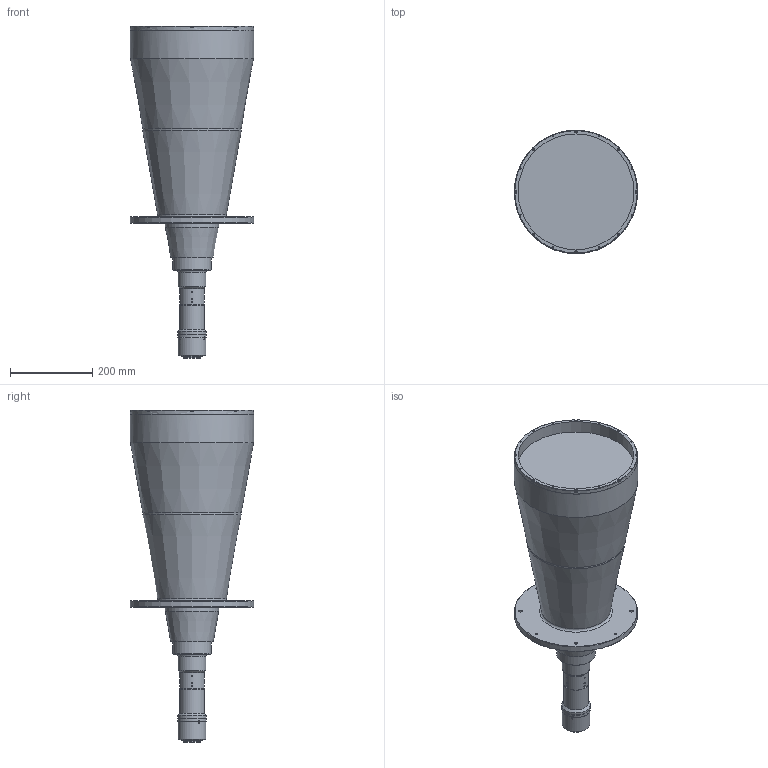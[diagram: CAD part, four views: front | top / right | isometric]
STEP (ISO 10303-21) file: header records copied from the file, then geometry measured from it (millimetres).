
FILE_DESCRIPTION (( 'STEP AP203' ), '1' );
FILE_NAME ('3d_mtl-26535p-013_a002.STEP', '2017-06-23T04:41:16', ( '' ), ( '' ), 'SwSTEP 2.0', 'SolidWorks 2014', '' );
FILE_SCHEMA (( 'CONFIG_CONTROL_DESIGN' ));
Length unit declared in the file: millimetre
Products named in the file (1): 3d_mtl-26535p-013_a002
Bounding box: 300 x 300 x 808.4 mm (x, y, z)
Volume: 23380633.3 mm3; surface area: 689876.3 mm2
Topology: 1 solids, 9 shells, 850 faces, 1983 edges, 1213 vertices
Faces by surface type: plane 512, cone 199, cylinder 98, torus 33, sphere 8
Full cylindrical faces by diameter (mm): 1.5 x8, 1.6 x4, 2.5 x3, 3.2 x4, 3.5 x8, 3.8 x3, 5 x4, 5.5 x8, 7 x4, 8 x8, 39 x1, 40.916 x1, 41.5 x1, 42 x1, 43 x1, 45 x1, 47 x1, 49 x1, 50 x1, 53 x1, 53.5 x1, 57.5 x1, 59 x1, 60 x2, 68 x3, 69.5 x1, 70 x2, 84.5 x1, 93 x1, 130 x1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
Entity records: 23281 total; most frequent: CARTESIAN_POINT 5091, DIRECTION 3904, ORIENTED_EDGE 3390, EDGE_CURVE 1695, AXIS2_PLACEMENT_3D 1555, EDGE_LOOP 1137, VERTEX_POINT 1122, FACE_OUTER_BOUND 972
